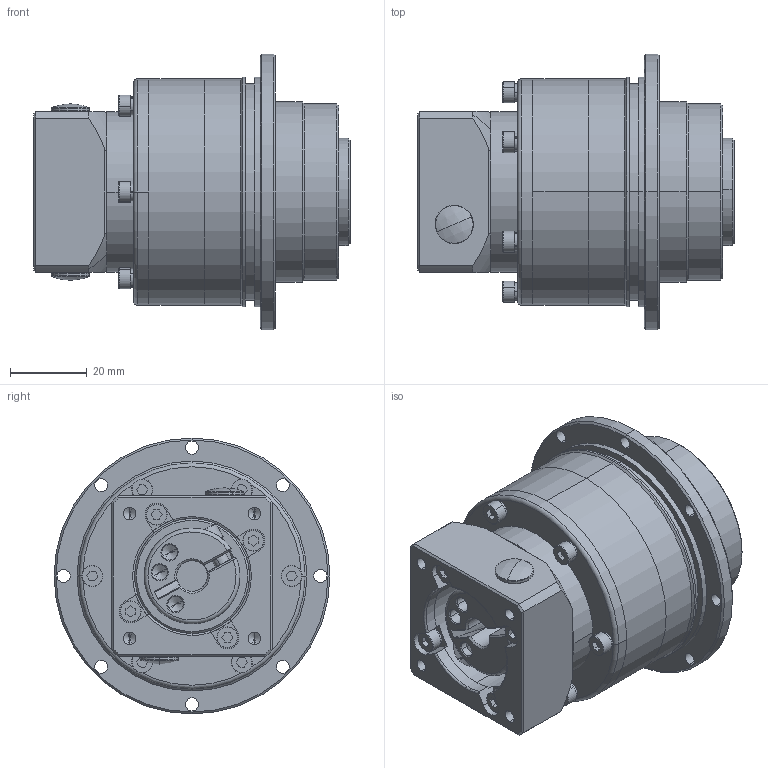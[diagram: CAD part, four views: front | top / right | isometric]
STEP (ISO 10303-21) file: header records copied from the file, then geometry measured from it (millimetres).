
FILE_DESCRIPTION (( 'STEP AP203' ), '1' );
FILE_NAME ('AD047L2-OP2-8-25-30-46-M4.STEP', '2020-03-10T07:40:12', ( 'dell' ), ( '' ), 'SwSTEP 2.0', 'SolidWorks 2018', '' );
FILE_SCHEMA (( 'CONFIG_CONTROL_DESIGN' ));
Length unit declared in the file: millimetre
Products named in the file (1): AD047L2-OP2-8-25-30-46-M4
Bounding box: 82.5 x 72 x 72 mm (x, y, z)
Volume: 104139.3 mm3; surface area: 56869.8 mm2
Topology: 42 solids, 42 shells, 835 faces, 1928 edges, 1205 vertices
Faces by surface type: cylinder 341, plane 259, cone 121, torus 80, sphere 30, bspline 4
Entity records: 24647 total; most frequent: CARTESIAN_POINT 5024, DIRECTION 4443, ORIENTED_EDGE 3788, EDGE_CURVE 1894, AXIS2_PLACEMENT_3D 1826, VERTEX_POINT 1205, CIRCLE 994, EDGE_LOOP 977
